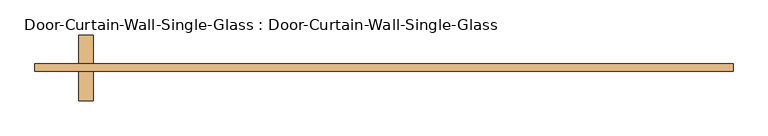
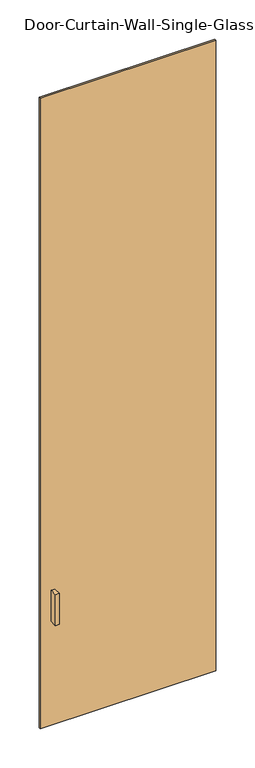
"""IFC4 building model written with IfcOpenShell, lengths in millimetres: door geometry, Door-Curtain-Wall-Single-Glass : Door-Curtain-Wall-Single-Glass."""

from ifc_helpers import new_model, si_unit, frame, origin, origin_with_axes, place, context, project, spatial, polyline, outline, extrude, source, transform, mapped, element, save


def door_curtain_wall_single_glass_door_curtain_wall_single_55bd0595(model_context):
    return source(origin(), model_context, "Body", "SweptSolid", [
        extrude(outline(polyline([(609.6, 0.0), (609.6, -12.7), (-609.6, -12.7), (-609.6, 0.0), (609.6, 0.0)])), origin_with_axes(), (0.0, 0.0, 1.0), 4629.15),
        extrude(outline(polyline([(-508.0, -63.5), (-533.4, -63.5), (-533.4, -12.7), (-508.0, -12.7), (-508.0, -63.5)])), frame((0.0, 0.0, 762.0), z_axis=(0.0, 0.0, 1.0), x_axis=(1.0, 0.0, 0.0)), (0.0, 0.0, 1.0), 228.6),
        extrude(outline(polyline([(-533.4, 50.8), (-508.0, 50.8), (-508.0, 0.0), (-533.4, 0.0), (-533.4, 50.8)])), frame((0.0, 0.0, 762.0), z_axis=(0.0, 0.0, 1.0), x_axis=(1.0, 0.0, 0.0)), (0.0, 0.0, 1.0), 228.6),
    ])


if __name__ == "__main__":
    model = new_model("IFC4")
    model_context = context("Model", 3, world=origin())
    ifc_project = project(units=[si_unit("LENGTHUNIT", "METRE", prefix="MILLI")], contexts=[model_context])
    site = spatial("IfcSite", under=ifc_project)
    building = spatial("IfcBuilding", under=site)
    placement = place(None, origin())
    door_curtain_wall_single_glass_door_curtain_wall_single_shape = door_curtain_wall_single_glass_door_curtain_wall_single_55bd0595(model_context)
    element("IfcDoor", 1, ObjectType="Door-Curtain-Wall-Single-Glass : Door-Curtain-Wall-Single-Glass", at=placement, inside=building, context=model_context, shape_type="MappedRepresentation", body=[
        mapped(door_curtain_wall_single_glass_door_curtain_wall_single_shape, transform((0.0, 0.0, 0.0), x_axis=(1.0, 0.0, 0.0), y_axis=(0.0, 1.0, 0.0), z_axis=(0.0, 0.0, 1.0))),
    ])
    save(model, "model.ifc")
